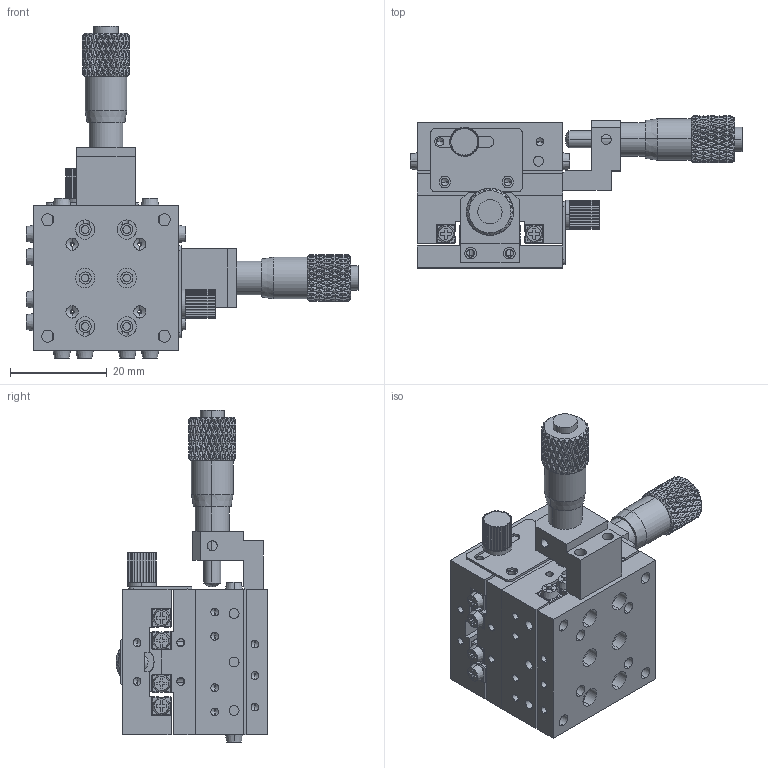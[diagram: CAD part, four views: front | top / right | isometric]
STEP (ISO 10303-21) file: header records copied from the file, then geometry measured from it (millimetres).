
FILE_DESCRIPTION (( 'STEP AP203' ), '1' );
FILE_NAME ('JCXY-30C.STEP', '2015-04-15T05:15:47', ( 'MMO' ), ( '' ), 'SwSTEP 2.0', 'SolidWorks 2013', '' );
FILE_SCHEMA (( 'CONFIG_CONTROL_DESIGN' ));
Length unit declared in the file: millimetre
Products named in the file (11): JALB-71-R; FC-PL-19X13; FC-SJ-2; FC-NB-6; FB-JX-BK-C-01; JCX-30C; FB-JCX30-BD-01; JCX-30CR; JV1-30-7; JCXY-30C; FB-JCX30-BD-02
Assembly tree (24 placements, depth 3):
  JCXY-30C
    JCX-30C
      FB-JCX30-BD-01
      JV1-30-7  x4
      FB-JCX30-BD-02
      JALB-71-R
      FC-PL-19X13
      FC-SJ-2
      FC-NB-6
      FB-JX-BK-C-01
    JCX-30CR
      FB-JCX30-BD-01
      JV1-30-7  x4
      FB-JCX30-BD-02
      JALB-71-R
      FB-JX-BK-C-01
      FC-PL-19X13
      FC-NB-6
      FC-SJ-2
Bounding box: 68.5 x 31.35 x 68.5 mm (x, y, z)
Volume: 27933 mm3; surface area: 24996.8 mm2
Topology: 22 solids, 22 shells, 3150 faces, 7584 edges, 4464 vertices
Faces by surface type: bspline 1152, cylinder 1064, plane 762, cone 168, sphere 4
Entity records: 45161 total; most frequent: CARTESIAN_POINT 21478, ORIENTED_EDGE 5760, DIRECTION 3341, EDGE_CURVE 2880, VERTEX_POINT 1692, EDGE_LOOP 1346, AXIS2_PLACEMENT_3D 1332, ADVANCED_FACE 1230
